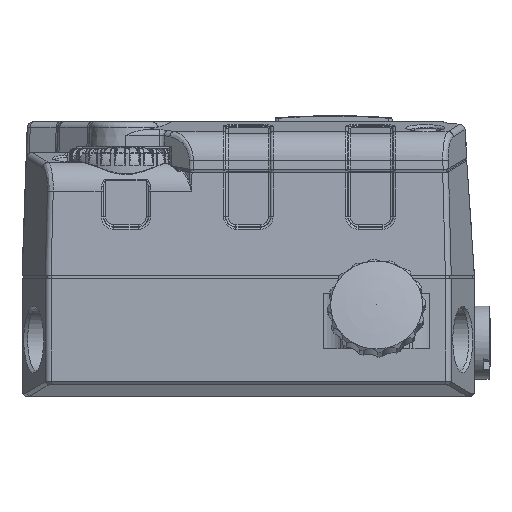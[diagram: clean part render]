
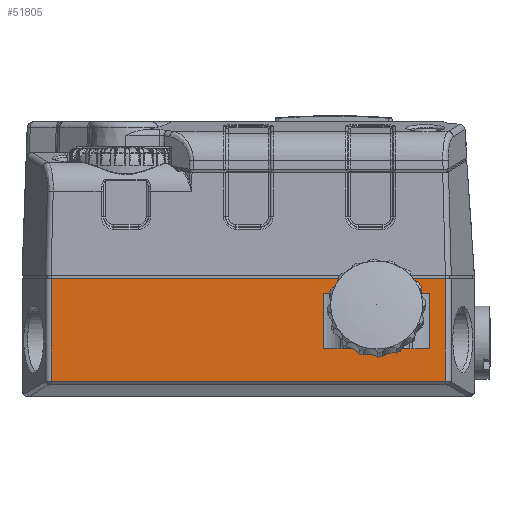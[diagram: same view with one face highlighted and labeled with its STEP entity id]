
A CAD part, left-side view. The second image highlights one B-rep face of the part: STEP entity #51805.
In plain terms, the highlighted planar face has unit normal (-1, 0, 0).
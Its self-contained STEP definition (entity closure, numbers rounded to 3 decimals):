
#3974=LINE('',#81607,#5930);
#3986=LINE('',#81641,#5942);
#3987=LINE('',#81643,#5943);
#4017=LINE('',#81767,#5973);
#4068=LINE('',#81928,#6024);
#4069=LINE('',#81930,#6025);
#4070=LINE('',#81932,#6026);
#4071=LINE('',#81934,#6027);
#5930=VECTOR('',#59316,1000.);
#5942=VECTOR('',#59348,1000.);
#5943=VECTOR('',#59351,1000.);
#5973=VECTOR('',#59459,1000.);
#6024=VECTOR('',#59582,1000.);
#6025=VECTOR('',#59585,1000.);
#6026=VECTOR('',#59586,1000.);
#6027=VECTOR('',#59587,1000.);
#11879=ORIENTED_EDGE('',*,*,#21006,.F.);
#11880=ORIENTED_EDGE('',*,*,#20988,.T.);
#11881=ORIENTED_EDGE('',*,*,#21005,.F.);
#11882=ORIENTED_EDGE('',*,*,#21061,.F.);
#11883=ORIENTED_EDGE('',*,*,#21132,.F.);
#11884=ORIENTED_EDGE('',*,*,#21131,.T.);
#11885=ORIENTED_EDGE('',*,*,#21133,.T.);
#11886=ORIENTED_EDGE('',*,*,#21134,.F.);
#20988=EDGE_CURVE('',#25828,#25827,#3974,.T.);
#21005=EDGE_CURVE('',#25839,#25827,#3986,.T.);
#21006=EDGE_CURVE('',#25828,#25840,#3987,.T.);
#21061=EDGE_CURVE('',#25840,#25839,#4017,.T.);
#21131=EDGE_CURVE('',#25918,#25919,#4068,.T.);
#21132=EDGE_CURVE('',#25918,#25920,#4069,.T.);
#21133=EDGE_CURVE('',#25919,#25921,#4070,.T.);
#21134=EDGE_CURVE('',#25920,#25921,#4071,.T.);
#25827=VERTEX_POINT('',#81606);
#25828=VERTEX_POINT('',#81608);
#25839=VERTEX_POINT('',#81640);
#25840=VERTEX_POINT('',#81644);
#25918=VERTEX_POINT('',#81925);
#25919=VERTEX_POINT('',#81927);
#25920=VERTEX_POINT('',#81931);
#25921=VERTEX_POINT('',#81933);
#30756=EDGE_LOOP('',(#11879,#11880,#11881,#11882));
#30757=EDGE_LOOP('',(#11883,#11884,#11885,#11886));
#33083=FACE_BOUND('',#30756,.T.);
#33084=FACE_BOUND('',#30757,.T.);
#34649=PLANE('',#54378);
#51805=ADVANCED_FACE('',(#33083,#33084),#34649,.T.);
#54378=AXIS2_PLACEMENT_3D('',#81929,#59583,#59584);
#59316=DIRECTION('',(0.,1.,0.));
#59348=DIRECTION('',(0.,0.,-1.));
#59351=DIRECTION('',(0.,0.,1.));
#59459=DIRECTION('',(0.,1.,0.));
#59582=DIRECTION('',(0.,0.,1.));
#59583=DIRECTION('',(-1.,0.,0.));
#59584=DIRECTION('',(0.,-1.,0.));
#59585=DIRECTION('',(0.,1.,0.));
#59586=DIRECTION('',(0.,1.,0.));
#59587=DIRECTION('',(0.,0.,1.));
#81606=CARTESIAN_POINT('',(-35.,-12.343,7.8));
#81607=CARTESIAN_POINT('',(-35.,8.,7.8));
#81608=CARTESIAN_POINT('',(-35.,-29.657,7.8));
#81640=CARTESIAN_POINT('',(-35.,-12.343,16.8));
#81641=CARTESIAN_POINT('',(-35.,-12.343,8.4));
#81643=CARTESIAN_POINT('',(-35.,-29.657,8.4));
#81644=CARTESIAN_POINT('',(-35.,-29.657,16.8));
#81767=CARTESIAN_POINT('',(-35.,16.127,16.8));
#81925=CARTESIAN_POINT('',(-35.,-32.253,2.492));
#81927=CARTESIAN_POINT('',(-35.,-32.253,19.3));
#81928=CARTESIAN_POINT('',(-35.,-32.253,16.8));
#81929=CARTESIAN_POINT('',(-35.,37.,0.));
#81930=CARTESIAN_POINT('',(-35.,37.,2.492));
#81931=CARTESIAN_POINT('',(-35.,32.253,2.492));
#81932=CARTESIAN_POINT('',(-35.,20.065,19.3));
#81933=CARTESIAN_POINT('',(-35.,32.253,19.3));
#81934=CARTESIAN_POINT('',(-35.,32.253,0.));
